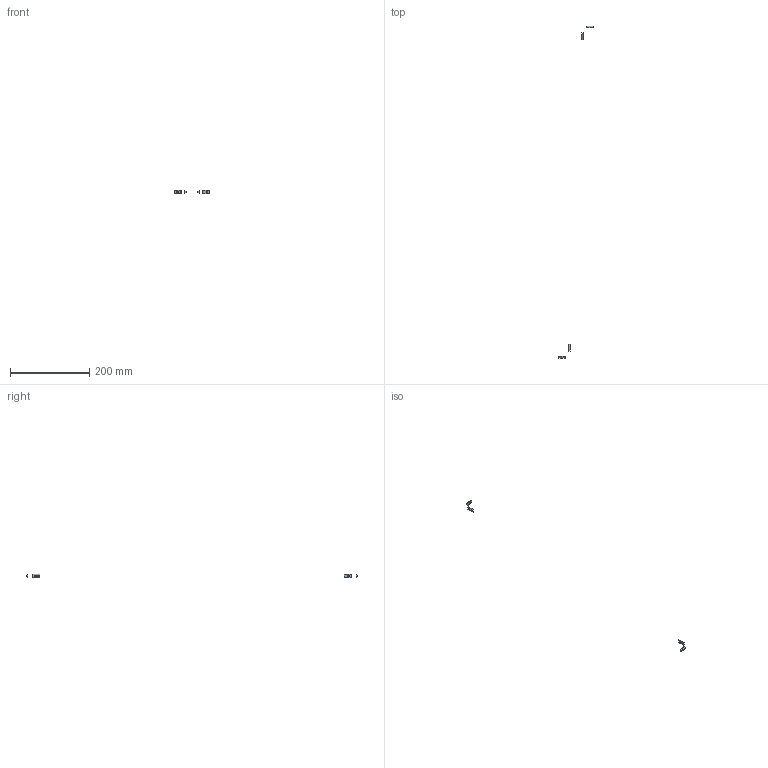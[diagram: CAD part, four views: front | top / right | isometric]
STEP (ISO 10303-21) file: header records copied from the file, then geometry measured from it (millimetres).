
FILE_DESCRIPTION(/* description */ (''),/* implementation_level */ '2;1');
FILE_NAME(/* name */ '4.frame-door#4.2#HNTPZ5-5',/* time_stamp */ '2014-12-01T20:12:34+01:00',/* author */ (''),/* organization */ (''),/* preprocessor_version */ 'ST-DEVELOPER v14',/* originating_system */ '',/* authorisation */ '');
FILE_SCHEMA (('AUTOMOTIVE_DESIGN'));
Length unit declared in the file: millimetre
Products named in the file (2): Document; nut tslot, post, M5
Assembly tree (4 placements, depth 2):
  Document
    nut tslot, post, M5  x4
Bounding box: 88 x 840.4 x 8.3 mm (x, y, z)
Volume: 1260 mm3; surface area: 1678 mm2
Topology: 4 solids, 4 shells, 52 faces, 144 edges, 96 vertices
Faces by surface type: plane 44, bspline 8
Entity records: 1025 total; most frequent: CARTESIAN_POINT 463, B_SPLINE_CURVE_WITH_KNOTS 100, ORIENTED_EDGE 72, PCURVE 72, DEFINITIONAL_REPRESENTATION 72, SURFACE_CURVE 36, EDGE_CURVE 36, VERTEX_POINT 24
